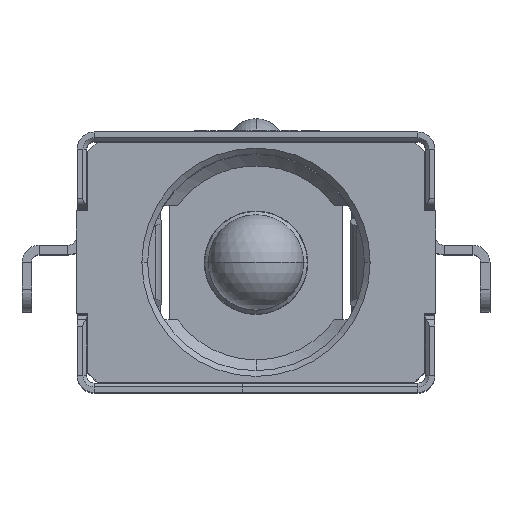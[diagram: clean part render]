
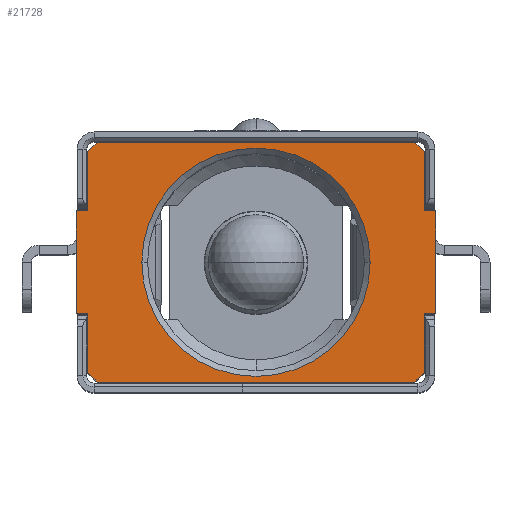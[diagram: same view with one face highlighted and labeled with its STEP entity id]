
A CAD part, top view. The second image highlights one B-rep face of the part: STEP entity #21728.
In plain terms, the highlighted planar face has unit normal (0, 0, 1).
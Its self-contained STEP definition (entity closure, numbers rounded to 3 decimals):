
#61 = CIRCLE ( 'NONE', #19468, 3. ) ;
#368 = FACE_OUTER_BOUND ( 'NONE', #1394, .T. ) ;
#531 = CARTESIAN_POINT ( 'NONE',  ( 0., 0., 14. ) ) ;
#883 = EDGE_CURVE ( 'NONE', #27375, #5963, #3067, .T. ) ;
#1103 = CARTESIAN_POINT ( 'NONE',  ( 4.175, 3.15, 14. ) ) ;
#1190 = ORIENTED_EDGE ( 'NONE', *, *, #8823, .T. ) ;
#1237 = VERTEX_POINT ( 'NONE', #17621 ) ;
#1394 = EDGE_LOOP ( 'NONE', ( #9385, #17507, #28469, #1190, #8332, #3633, #11648, #5008, #28942, #17223, #20131, #9567, #22415, #24142, #10532, #25194 ) ) ;
#1900 = CARTESIAN_POINT ( 'NONE',  ( 4.425, -2.9, 14. ) ) ;
#2030 = DIRECTION ( 'NONE',  ( 0., 1., 0. ) ) ;
#2417 = VECTOR ( 'NONE', #10886, 1000. ) ;
#2763 = LINE ( 'NONE', #18390, #22706 ) ;
#3067 = LINE ( 'NONE', #29450, #2417 ) ;
#3106 = DIRECTION ( 'NONE',  ( 0., 0., 1. ) ) ;
#3477 = DIRECTION ( 'NONE',  ( 0., 0., 1. ) ) ;
#3633 = ORIENTED_EDGE ( 'NONE', *, *, #11974, .F. ) ;
#3798 = VECTOR ( 'NONE', #5387, 1000. ) ;
#3809 = VECTOR ( 'NONE', #7233, 1000. ) ;
#3823 = CARTESIAN_POINT ( 'NONE',  ( 0., 0., 14. ) ) ;
#4388 = VERTEX_POINT ( 'NONE', #17492 ) ;
#4486 = EDGE_CURVE ( 'NONE', #18058, #1237, #7733, .T. ) ;
#4543 = VERTEX_POINT ( 'NONE', #8959 ) ;
#4885 = VECTOR ( 'NONE', #18542, 1000. ) ;
#4993 = EDGE_CURVE ( 'NONE', #13642, #11642, #25683, .T. ) ;
#5008 = ORIENTED_EDGE ( 'NONE', *, *, #4993, .F. ) ;
#5237 = DIRECTION ( 'NONE',  ( 0., 1., 0. ) ) ;
#5387 = DIRECTION ( 'NONE',  ( 0., -1., 0. ) ) ;
#5424 = DIRECTION ( 'NONE',  ( 0., -1., 0. ) ) ;
#5446 = VERTEX_POINT ( 'NONE', #26677 ) ;
#5653 = CARTESIAN_POINT ( 'NONE',  ( 4.425, 1.35, 14. ) ) ;
#5660 = VECTOR ( 'NONE', #19651, 1000. ) ;
#5963 = VERTEX_POINT ( 'NONE', #28505 ) ;
#6195 = EDGE_CURVE ( 'NONE', #12968, #32091, #13764, .T. ) ;
#6453 = EDGE_CURVE ( 'NONE', #13642, #5446, #10364, .T. ) ;
#6518 = DIRECTION ( 'NONE',  ( -1., 0., 0. ) ) ;
#7060 = CARTESIAN_POINT ( 'NONE',  ( 4.425, -2.9, 14. ) ) ;
#7233 = DIRECTION ( 'NONE',  ( 1., 0., 0. ) ) ;
#7733 = LINE ( 'NONE', #5653, #29689 ) ;
#7748 = CARTESIAN_POINT ( 'NONE',  ( 4.425, -1.35, 14. ) ) ;
#8037 = CARTESIAN_POINT ( 'NONE',  ( -4.425, 2.9, 14. ) ) ;
#8071 = CARTESIAN_POINT ( 'NONE',  ( -4.175, -3.15, 14. ) ) ;
#8332 = ORIENTED_EDGE ( 'NONE', *, *, #883, .T. ) ;
#8466 = CARTESIAN_POINT ( 'NONE',  ( 4.175, 3.15, 14. ) ) ;
#8823 = EDGE_CURVE ( 'NONE', #24934, #27375, #23754, .T. ) ;
#8959 = CARTESIAN_POINT ( 'NONE',  ( -4.425, 1.35, 14. ) ) ;
#9053 = CARTESIAN_POINT ( 'NONE',  ( 4.725, 1.35, 14. ) ) ;
#9246 = VERTEX_POINT ( 'NONE', #8071 ) ;
#9385 = ORIENTED_EDGE ( 'NONE', *, *, #18579, .T. ) ;
#9567 = ORIENTED_EDGE ( 'NONE', *, *, #34180, .T. ) ;
#9632 = VECTOR ( 'NONE', #19232, 1000. ) ;
#9824 = LINE ( 'NONE', #23545, #24164 ) ;
#10016 = CARTESIAN_POINT ( 'NONE',  ( -4.175, -3.15, 14. ) ) ;
#10364 = LINE ( 'NONE', #7060, #13189 ) ;
#10528 = DIRECTION ( 'NONE',  ( 0., 1., 0. ) ) ;
#10532 = ORIENTED_EDGE ( 'NONE', *, *, #22077, .T. ) ;
#10886 = DIRECTION ( 'NONE',  ( 0., -1., 0. ) ) ;
#10956 = PLANE ( 'NONE',  #27644 ) ;
#11448 = CARTESIAN_POINT ( 'NONE',  ( 0., 0., 14. ) ) ;
#11642 = VERTEX_POINT ( 'NONE', #19411 ) ;
#11648 = ORIENTED_EDGE ( 'NONE', *, *, #21860, .T. ) ;
#11824 = VECTOR ( 'NONE', #5237, 1000. ) ;
#11974 = EDGE_CURVE ( 'NONE', #9246, #5963, #9824, .T. ) ;
#12602 = EDGE_CURVE ( 'NONE', #19817, #1237, #26876, .T. ) ;
#12847 = VERTEX_POINT ( 'NONE', #31518 ) ;
#12968 = VERTEX_POINT ( 'NONE', #16246 ) ;
#13189 = VECTOR ( 'NONE', #2030, 1000. ) ;
#13642 = VERTEX_POINT ( 'NONE', #26632 ) ;
#13764 = CIRCLE ( 'NONE', #18188, 3. ) ;
#13776 = LINE ( 'NONE', #30096, #20549 ) ;
#14870 = EDGE_LOOP ( 'NONE', ( #28466, #19597 ) ) ;
#15399 = DIRECTION ( 'NONE',  ( 1., 0., 0. ) ) ;
#16246 = CARTESIAN_POINT ( 'NONE',  ( -3., 0., 14. ) ) ;
#17223 = ORIENTED_EDGE ( 'NONE', *, *, #29750, .T. ) ;
#17488 = CARTESIAN_POINT ( 'NONE',  ( 4.425, 1.35, 14. ) ) ;
#17492 = CARTESIAN_POINT ( 'NONE',  ( 4.725, -1.35, 14. ) ) ;
#17507 = ORIENTED_EDGE ( 'NONE', *, *, #22981, .T. ) ;
#17557 = EDGE_CURVE ( 'NONE', #32091, #12968, #61, .T. ) ;
#17621 = CARTESIAN_POINT ( 'NONE',  ( 4.425, 2.9, 14. ) ) ;
#17659 = CARTESIAN_POINT ( 'NONE',  ( -4.725, 1.35, 14. ) ) ;
#18058 = VERTEX_POINT ( 'NONE', #17488 ) ;
#18188 = AXIS2_PLACEMENT_3D ( 'NONE', #11448, #3106, #27066 ) ;
#18390 = CARTESIAN_POINT ( 'NONE',  ( -4.425, 1.35, 14. ) ) ;
#18542 = DIRECTION ( 'NONE',  ( 1., 0., 0. ) ) ;
#18579 = EDGE_CURVE ( 'NONE', #12847, #4543, #29392, .T. ) ;
#18600 = CARTESIAN_POINT ( 'NONE',  ( -4.725, 1.35, 14. ) ) ;
#18615 = CARTESIAN_POINT ( 'NONE',  ( 4.725, -1.35, 14. ) ) ;
#18937 = DIRECTION ( 'NONE',  ( 1., 0., 0. ) ) ;
#19232 = DIRECTION ( 'NONE',  ( 0.707, -0.707, 0. ) ) ;
#19411 = CARTESIAN_POINT ( 'NONE',  ( 4.175, -3.15, 14. ) ) ;
#19468 = AXIS2_PLACEMENT_3D ( 'NONE', #531, #3477, #18937 ) ;
#19597 = ORIENTED_EDGE ( 'NONE', *, *, #6195, .F. ) ;
#19651 = DIRECTION ( 'NONE',  ( -1., 0., 0. ) ) ;
#19817 = VERTEX_POINT ( 'NONE', #1103 ) ;
#20131 = ORIENTED_EDGE ( 'NONE', *, *, #23765, .T. ) ;
#20549 = VECTOR ( 'NONE', #33049, 1000. ) ;
#21656 = EDGE_CURVE ( 'NONE', #28528, #24934, #31797, .T. ) ;
#21728 = ADVANCED_FACE ( 'NONE', ( #26755, #368 ), #10956, .T. ) ;
#21860 = EDGE_CURVE ( 'NONE', #9246, #11642, #25981, .T. ) ;
#22077 = EDGE_CURVE ( 'NONE', #19817, #24590, #32765, .T. ) ;
#22415 = ORIENTED_EDGE ( 'NONE', *, *, #4486, .T. ) ;
#22706 = VECTOR ( 'NONE', #34029, 1000. ) ;
#22981 = EDGE_CURVE ( 'NONE', #4543, #28528, #2763, .T. ) ;
#23079 = DIRECTION ( 'NONE',  ( -0.707, -0.707, 0. ) ) ;
#23545 = CARTESIAN_POINT ( 'NONE',  ( -4.175, -3.15, 14. ) ) ;
#23732 = CARTESIAN_POINT ( 'NONE',  ( 3., 0., 14. ) ) ;
#23754 = LINE ( 'NONE', #32085, #4885 ) ;
#23765 = EDGE_CURVE ( 'NONE', #4388, #28716, #34242, .T. ) ;
#24142 = ORIENTED_EDGE ( 'NONE', *, *, #12602, .F. ) ;
#24164 = VECTOR ( 'NONE', #28732, 1000. ) ;
#24590 = VERTEX_POINT ( 'NONE', #27727 ) ;
#24934 = VERTEX_POINT ( 'NONE', #27516 ) ;
#25061 = CARTESIAN_POINT ( 'NONE',  ( 4.725, 1.35, 14. ) ) ;
#25194 = ORIENTED_EDGE ( 'NONE', *, *, #31572, .F. ) ;
#25649 = DIRECTION ( 'NONE',  ( 0., 0., 1. ) ) ;
#25683 = LINE ( 'NONE', #1900, #30299 ) ;
#25981 = LINE ( 'NONE', #10016, #32660 ) ;
#26632 = CARTESIAN_POINT ( 'NONE',  ( 4.425, -2.9, 14. ) ) ;
#26677 = CARTESIAN_POINT ( 'NONE',  ( 4.425, -1.35, 14. ) ) ;
#26755 = FACE_BOUND ( 'NONE', #14870, .T. ) ;
#26876 = LINE ( 'NONE', #8466, #9632 ) ;
#27066 = DIRECTION ( 'NONE',  ( -1., 0., 0. ) ) ;
#27375 = VERTEX_POINT ( 'NONE', #33086 ) ;
#27516 = CARTESIAN_POINT ( 'NONE',  ( -4.725, -1.35, 14. ) ) ;
#27644 = AXIS2_PLACEMENT_3D ( 'NONE', #3823, #25649, #27778 ) ;
#27727 = CARTESIAN_POINT ( 'NONE',  ( -4.175, 3.15, 14. ) ) ;
#27778 = DIRECTION ( 'NONE',  ( 1., 0., 0. ) ) ;
#28466 = ORIENTED_EDGE ( 'NONE', *, *, #17557, .F. ) ;
#28469 = ORIENTED_EDGE ( 'NONE', *, *, #21656, .T. ) ;
#28505 = CARTESIAN_POINT ( 'NONE',  ( -4.425, -2.9, 14. ) ) ;
#28528 = VERTEX_POINT ( 'NONE', #17659 ) ;
#28716 = VERTEX_POINT ( 'NONE', #25061 ) ;
#28732 = DIRECTION ( 'NONE',  ( -0.707, 0.707, 0. ) ) ;
#28942 = ORIENTED_EDGE ( 'NONE', *, *, #6453, .T. ) ;
#29392 = LINE ( 'NONE', #8037, #31141 ) ;
#29450 = CARTESIAN_POINT ( 'NONE',  ( -4.425, -1.35, 14. ) ) ;
#29689 = VECTOR ( 'NONE', #10528, 1000. ) ;
#29750 = EDGE_CURVE ( 'NONE', #5446, #4388, #31543, .T. ) ;
#30096 = CARTESIAN_POINT ( 'NONE',  ( -4.425, 2.9, 14. ) ) ;
#30299 = VECTOR ( 'NONE', #23079, 1000. ) ;
#31141 = VECTOR ( 'NONE', #5424, 1000. ) ;
#31518 = CARTESIAN_POINT ( 'NONE',  ( -4.425, 2.9, 14. ) ) ;
#31543 = LINE ( 'NONE', #7748, #3809 ) ;
#31572 = EDGE_CURVE ( 'NONE', #12847, #24590, #13776, .T. ) ;
#31797 = LINE ( 'NONE', #18600, #3798 ) ;
#32085 = CARTESIAN_POINT ( 'NONE',  ( -4.725, -1.35, 14. ) ) ;
#32091 = VERTEX_POINT ( 'NONE', #23732 ) ;
#32660 = VECTOR ( 'NONE', #15399, 1000. ) ;
#32765 = LINE ( 'NONE', #33097, #33761 ) ;
#33020 = LINE ( 'NONE', #9053, #5660 ) ;
#33049 = DIRECTION ( 'NONE',  ( 0.707, 0.707, 0. ) ) ;
#33086 = CARTESIAN_POINT ( 'NONE',  ( -4.425, -1.35, 14. ) ) ;
#33097 = CARTESIAN_POINT ( 'NONE',  ( 4.175, 3.15, 14. ) ) ;
#33761 = VECTOR ( 'NONE', #6518, 1000. ) ;
#34029 = DIRECTION ( 'NONE',  ( -1., 0., 0. ) ) ;
#34180 = EDGE_CURVE ( 'NONE', #28716, #18058, #33020, .T. ) ;
#34242 = LINE ( 'NONE', #18615, #11824 ) ;
